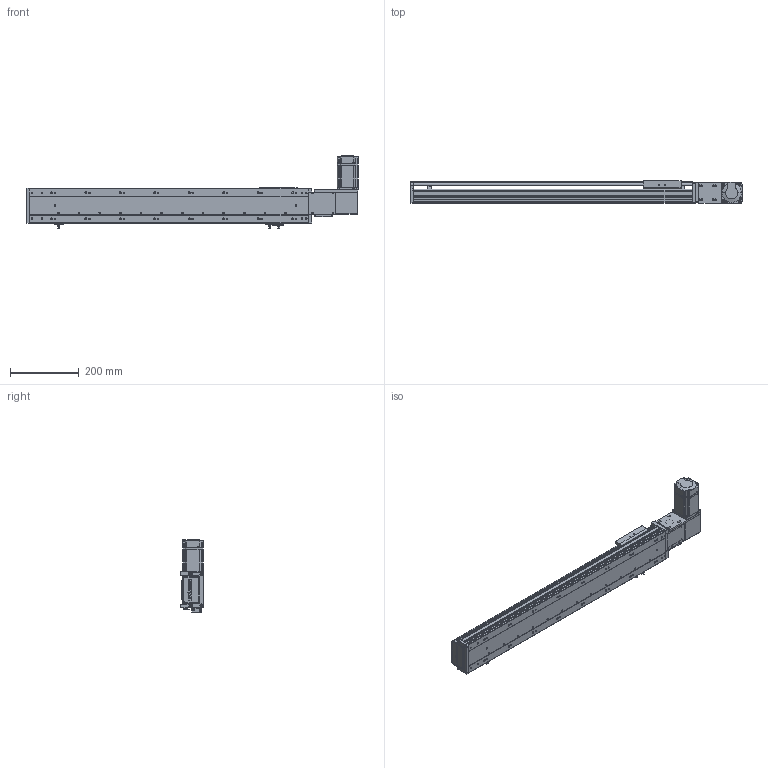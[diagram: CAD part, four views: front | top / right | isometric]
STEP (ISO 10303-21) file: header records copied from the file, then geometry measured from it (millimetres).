
FILE_DESCRIPTION (( 'STEP AP203' ), '1' );
FILE_NAME ('RY100-T-300-RK.SLDASM_600.step', '2024-04-25T08:21:58', ( '盈信电脑' ), ( '东莞市道滘镇水果街19号' ), 'SwSTEP 2.0', 'SolidWorks 2016', '' );
FILE_SCHEMA (( 'CONFIG_CONTROL_DESIGN' ));
Length unit declared in the file: millimetre
Products named in the file (15): RY100-T粣創揤踡裔; 1; RY100-T-300-RK.SLDASM_600; RY100-T左右折电机安装板; 滅袉蝶18-10; RY100-T翋肮祭謫裔啣2; RY100綴裔啣; 覜茼ん672; RY100-T肮祭謫翋盓傅釱; RY100-T-300-RK倰第菁釱_600; RY100-T-300-RK倰第奻裔_600; 侂狟200W萇儂; RY80-T肮祭謫俋欶; RY100-T肮祭謫臏賑輸; RY100俋离覜茼え
Assembly tree (18 placements, depth 3):
  RY100-T-300-RK.SLDASM_600
    RY100-T-300-RK倰第菁釱_600
    RY100-T-300-RK倰第奻裔_600
    RY100-T肮祭謫臏賑輸
    RY100綴裔啣
    覜茼ん672  x3
    RY100俋离覜茼え
    RY100-T肮祭謫翋盓傅釱
    RY100-T左右折电机安装板
    侂狟200W萇儂
      1
    RY100-T粣創揤踡裔
    滅袉蝶18-10  x2
    RY100-T翋肮祭謫裔啣2  x2
    RY80-T肮祭謫俋欶
Bounding box: 964 x 66 x 209.7 mm (x, y, z)
Volume: 1984380.8 mm3; surface area: 795958.8 mm2
Topology: 17 solids, 17 shells, 2191 faces, 6104 edges, 3968 vertices
Faces by surface type: plane 1193, cylinder 787, cone 133, bspline 78
Entity records: 70180 total; most frequent: CARTESIAN_POINT 17067, ORIENTED_EDGE 10944, DIRECTION 10384, EDGE_CURVE 5472, VERTEX_POINT 3604, VECTOR 3540, LINE 3540, AXIS2_PLACEMENT_3D 3422
